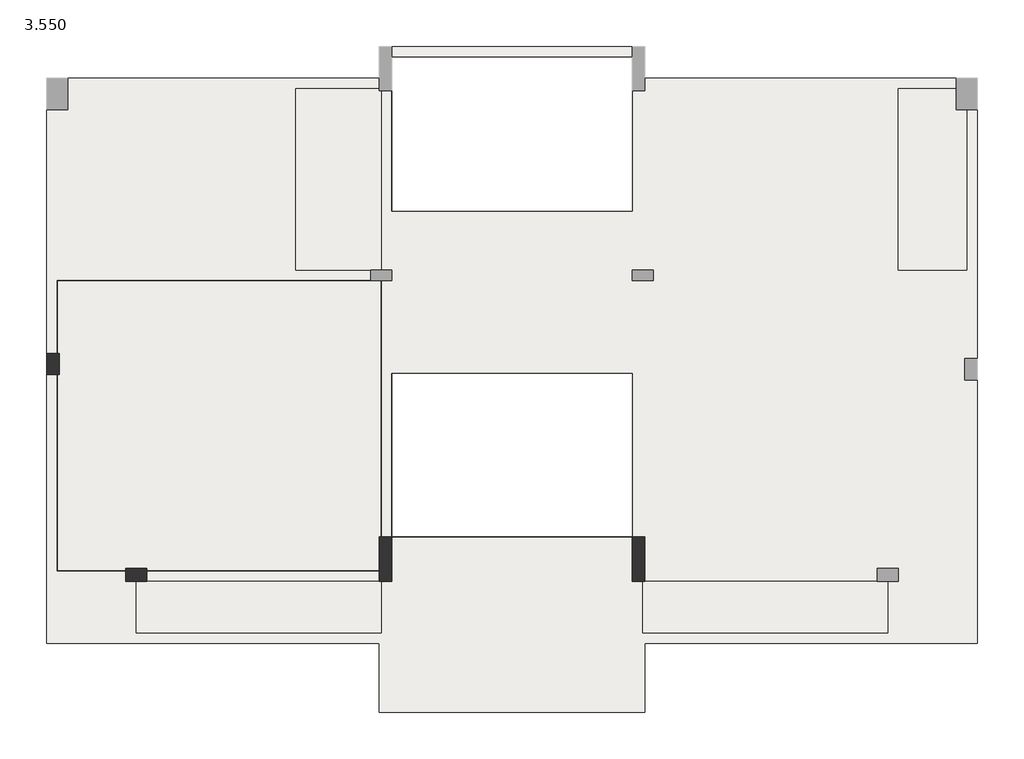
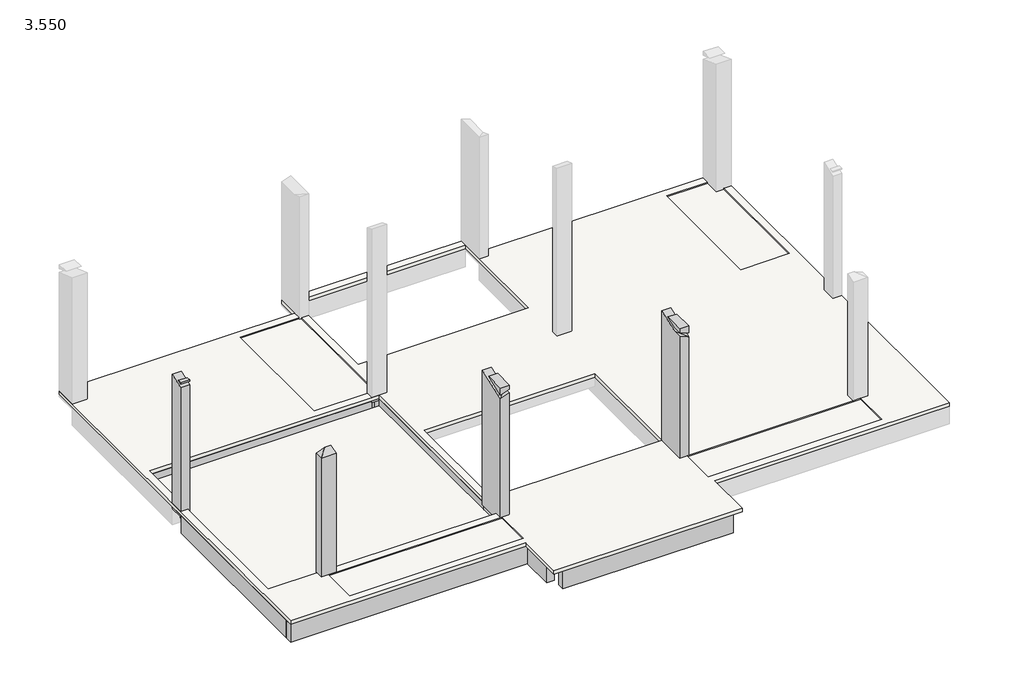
# One storey, part 1 of 2: 11 beams, 4 columns, 3 slabs.
"""IFC4 building model written with IfcOpenShell, lengths in millimetres."""

from ifc_helpers import new_model, si_unit, frame, origin, place, context, project, spatial, polyline, outline, extrude, faceted_brep, element, save

model = new_model("IFC4")

# Units and contexts
model_context = context("Model", 3, world=origin())
ifc_project = project(units=[si_unit("LENGTHUNIT", "METRE", prefix="MILLI")], contexts=[model_context])

# Site, building, storey
site = spatial("IfcSite", under=ifc_project)
building = spatial("IfcBuilding", under=site)
storey = spatial("IfcBuildingStorey", under=building, Name="3.550", Elevation=3550.0)

# Beams
placement = place(None, origin())
element("IfcBeam", 1, ObjectType="混凝土 - 矩形梁 : KL1 200X600", at=placement, inside=storey, context=model_context, shape_type="Brep", body=[
    faceted_brep([(-13244.5197818, -993.9538269, 2950.0), (-7304.5197818, -993.9538269, 2950.0), (-7304.5197818, -993.9538269, 3400.0), (-7304.5197818, -993.9538269, 3450.0), (-13244.5197818, -993.9538269, 3450.0), (-13244.5197818, -993.9538269, 3250.0), (-13244.5197818, -993.9538269, 3090.0), (-13244.5197818, -793.9538269, 2950.0), (-7304.5197818, -793.9538269, 2950.0), (-13244.5197818, -793.9538269, 3450.0), (-8924.5197818, -793.9538269, 3450.0), (-8724.5197818, -793.9538269, 3450.0), (-7304.5197818, -793.9538269, 3450.0), (-7304.5197818, -793.9538269, 3420.0), (-7304.5197818, -793.9538269, 3400.0)], [[[0, 1, 2, 3, 4, 5, 6]], [[0, 7, 8, 1]], [[8, 7, 9, 10, 11, 12, 13, 14]], [[7, 0, 6, 5, 4, 9]], [[1, 8, 14, 13, 12, 3, 2]], [[4, 3, 12, 11, 10, 9]]]),
])
element("IfcBeam", 2, ObjectType="混凝土 - 矩形梁 : KL1 200X600", at=placement, inside=storey, context=model_context, shape_type="Brep", body=[
    faceted_brep([(-11544.5197818, -6693.9538269, 2950.0), (-7144.5197818, -6693.9538269, 2950.0), (-7144.5197818, -6693.9538269, 3400.0), (-7144.5197818, -6693.9538269, 3420.0), (-7144.5197818, -6693.9538269, 3450.0), (-11544.5197818, -6693.9538269, 3450.0), (-11544.5197818, -6693.9538269, 3420.0), (-11544.5197818, -6693.9538269, 3400.0), (-11544.5197818, -6493.9538269, 2950.0), (-7144.5197818, -6493.9538269, 2950.0), (-11544.5197818, -6493.9538269, 3090.0), (-11544.5197818, -6493.9538269, 3250.0), (-11544.5197818, -6493.9538269, 3400.0), (-11544.5197818, -6493.9538269, 3450.0), (-7144.5197818, -6493.9538269, 3450.0), (-7144.5197818, -6493.9538269, 3250.0), (-7144.5197818, -6493.9538269, 3090.0)], [[[0, 1, 2, 3, 4, 5, 6, 7]], [[0, 8, 9, 1]], [[9, 8, 10, 11, 12, 13, 14, 15, 16]], [[8, 0, 7, 6, 5, 13, 12, 11, 10]], [[1, 9, 16, 15, 14, 4, 3, 2]], [[5, 4, 14, 13]]]),
    faceted_brep([(-13244.5197818, -6493.9538269, 2950.0), (-13244.5197818, -6693.9538269, 2950.0), (-13244.5197818, -6693.9538269, 3450.0), (-13244.5197818, -6493.9538269, 3450.0), (-13244.5197818, -6493.9538269, 3250.0), (-13244.5197818, -6493.9538269, 3090.0), (-11944.5197818, -6693.9538269, 2950.0), (-11944.5197818, -6493.9538269, 2950.0), (-11944.5197818, -6493.9538269, 3090.0), (-11944.5197818, -6493.9538269, 3250.0), (-11944.5197818, -6493.9538269, 3400.0), (-11944.5197818, -6493.9538269, 3450.0), (-11944.5197818, -6693.9538269, 3450.0), (-11944.5197818, -6693.9538269, 3400.0)], [[[0, 1, 2, 3, 4, 5]], [[6, 7, 8, 9, 10, 11, 12, 13]], [[1, 6, 13, 12, 2]], [[1, 0, 7, 6]], [[7, 0, 5, 4, 3, 11, 10, 9, 8]], [[3, 2, 12, 11]]]),
])
element("IfcBeam", 3, ObjectType="混凝土 - 矩形梁 : KL1 200X600", at=placement, inside=storey, context=model_context, shape_type="Brep", body=[
    faceted_brep([(-6904.5197818, -6053.9538269, 2950.0), (-2344.5197818, -6053.9538269, 2950.0), (-2344.5197818, -6053.9538269, 3450.0), (-6904.5197818, -6053.9538269, 3450.0), (-6904.5197818, -5853.9538269, 2950.0), (-2344.5197818, -5853.9538269, 2950.0), (-6904.5197818, -5853.9538269, 3400.0), (-6904.5197818, -5853.9538269, 3450.0), (-2344.5197818, -5853.9538269, 3450.0), (-2344.5197818, -5853.9538269, 3400.0)], [[[0, 1, 2, 3]], [[0, 4, 5, 1]], [[5, 4, 6, 7, 8, 9]], [[4, 0, 3, 7, 6]], [[1, 5, 9, 8, 2]], [[3, 2, 8, 7]]]),
])
element("IfcBeam", 4, ObjectType="混凝土 - 矩形梁 : KL1 200X600", at=placement, inside=storey, context=model_context, shape_type="Brep", body=[
    faceted_brep([(-13444.5197818, -7873.9538269, 2950.0), (-7104.5197818, -7873.9538269, 2950.0), (-7104.5197818, -7873.9538269, 3450.0), (-7144.5197818, -7873.9538269, 3450.0), (-13444.5197818, -7873.9538269, 3450.0), (-13444.5197818, -7673.9538269, 2950.0), (-13244.5197818, -7673.9538269, 2950.0), (-7104.5197818, -7673.9538269, 2950.0), (-13444.5197818, -7673.9538269, 3450.0), (-13244.5197818, -7673.9538269, 3450.0), (-11944.5197818, -7673.9538269, 3450.0), (-11744.5197818, -7673.9538269, 3450.0), (-7104.5197818, -7673.9538269, 3450.0), (-7104.5197818, -7673.9538269, 3420.0)], [[[0, 1, 2, 3, 4]], [[0, 5, 6, 7, 1]], [[7, 6, 5, 8, 9, 10, 11, 12, 13]], [[5, 0, 4, 8]], [[1, 7, 13, 12, 2]], [[4, 3, 2, 12, 11, 10, 9, 8]]]),
])
element("IfcBeam", 5, ObjectType="混凝土 - 矩形梁 : KL1 200X600", at=placement, inside=storey, context=model_context, shape_type="Brep", body=[
    faceted_brep([(-13444.5197818, -2793.9538269, 2950.0), (-13444.5197818, -7673.9538269, 2950.0), (-13444.5197818, -7673.9538269, 3450.0), (-13444.5197818, -2793.9538269, 3450.0), (-13244.5197818, -7673.9538269, 2950.0), (-13244.5197818, -2793.9538269, 2950.0), (-13244.5197818, -6493.9538269, 2950.0), (-13244.5197818, -6693.9538269, 2950.0), (-13244.5197818, -2793.9538269, 3090.0), (-13244.5197818, -2793.9538269, 3250.0), (-13244.5197818, -2793.9538269, 3450.0), (-13244.5197818, -6493.9538269, 3450.0), (-13244.5197818, -6693.9538269, 3450.0), (-13244.5197818, -7673.9538269, 3450.0)], [[[0, 1, 2, 3]], [[4, 1, 0, 5, 6, 7]], [[4, 7, 6, 5, 8, 9, 10, 11, 12, 13]], [[1, 4, 13, 2]], [[5, 0, 3, 10, 9, 8]], [[3, 2, 13, 12, 11, 10]]]),
])
element("IfcBeam", 6, ObjectType="混凝土 - 矩形梁 : KL1 200X600", at=placement, inside=storey, context=model_context, shape_type="Brep", body=[
    faceted_brep([(-7104.5197818, -993.9538269, 2950.0), (-7104.5197818, -5853.9538269, 2950.0), (-7104.5197818, -5853.9538269, 3090.0), (-7104.5197818, -5853.9538269, 3250.0), (-7104.5197818, -5853.9538269, 3450.0), (-7104.5197818, -993.9538269, 3450.0), (-7104.5197818, -993.9538269, 3400.0), (-7104.5197818, -993.9538269, 3250.0), (-7104.5197818, -993.9538269, 3090.0), (-6904.5197818, -993.9538269, 2950.0), (-6904.5197818, -5853.9538269, 2950.0), (-6904.5197818, -993.9538269, 3400.0), (-6904.5197818, -993.9538269, 3450.0), (-6904.5197818, -2553.9538269, 3450.0), (-6904.5197818, -2753.9538269, 3450.0), (-6904.5197818, -5853.9538269, 3450.0), (-6904.5197818, -5853.9538269, 3400.0)], [[[0, 1, 2, 3, 4, 5, 6, 7, 8]], [[0, 9, 10, 1]], [[10, 9, 11, 12, 13, 14, 15, 16]], [[9, 0, 8, 7, 6, 5, 12, 11]], [[1, 10, 16, 15, 4, 3, 2]], [[5, 4, 15, 14, 13, 12]]]),
    faceted_brep([(-7104.5197818, -793.9538269, 2950.0), (-6904.5197818, -793.9538269, 2950.0), (-6904.5197818, -793.9538269, 3400.0), (-6904.5197818, -793.9538269, 3450.0), (-7104.5197818, -793.9538269, 3450.0), (-7104.5197818, -793.9538269, 3420.0), (-7104.5197818, -793.9538269, 3400.0), (-7104.5197818, 2606.0461731, 2950.0), (-7104.5197818, 2606.0461731, 3450.0), (-7104.5197818, 2606.0461731, 3420.0), (-6904.5197818, 2606.0461731, 2950.0), (-6904.5197818, 2606.0461731, 3400.0), (-6904.5197818, 2606.0461731, 3450.0), (-6904.5197818, 326.0461731, 3450.0), (-6904.5197818, 126.0461731, 3450.0)], [[[0, 1, 2, 3, 4, 5, 6]], [[7, 0, 6, 5, 4, 8, 9]], [[1, 0, 7, 10]], [[1, 10, 11, 12, 13, 14, 3, 2]], [[10, 7, 9, 8, 12, 11]], [[4, 3, 14, 13, 12, 8]]]),
])
element("IfcBeam", 7, ObjectType="混凝土 - 矩形梁 : KL1 200X600", at=placement, inside=storey, context=model_context, shape_type="Brep", body=[
    faceted_brep([(-7104.5197818, -6693.9538269, 2950.0), (-7104.5197818, -7673.9538269, 2950.0), (-7104.5197818, -7873.9538269, 2950.0), (-7104.5197818, -8773.9538269, 2950.0), (-7104.5197818, -8773.9538269, 3450.0), (-7104.5197818, -7873.9538269, 3450.0), (-7104.5197818, -7673.9538269, 3450.0), (-7104.5197818, -6693.9538269, 3450.0), (-7104.5197818, -6693.9538269, 3420.0), (-6904.5197818, -6693.9538269, 2950.0), (-6904.5197818, -8773.9538269, 2950.0), (-6904.5197818, -6693.9538269, 3400.0), (-6904.5197818, -6693.9538269, 3450.0), (-6904.5197818, -8773.9538269, 3450.0)], [[[0, 1, 2, 3, 4, 5, 6, 7, 8]], [[0, 9, 10, 3, 2, 1]], [[10, 9, 11, 12, 13]], [[9, 0, 8, 7, 12, 11]], [[3, 10, 13, 4]], [[7, 6, 5, 4, 13, 12]]]),
])
element("IfcBeam", 8, ObjectType="混凝土 - 矩形梁 : KL1 200X600", at=placement, inside=storey, context=model_context, shape_type="Brep", body=[
    faceted_brep([(-2144.5197818, -8773.9538269, 2950.0), (-2144.5197818, -7873.9538269, 2950.0), (-2144.5197818, -7673.9538269, 2950.0), (-2144.5197818, -6693.9538269, 2950.0), (-2144.5197818, -6693.9538269, 3420.0), (-2144.5197818, -6693.9538269, 3450.0), (-2144.5197818, -7673.9538269, 3450.0), (-2144.5197818, -7873.9538269, 3450.0), (-2144.5197818, -8773.9538269, 3450.0), (-2344.5197818, -6693.9538269, 2950.0), (-2344.5197818, -8773.9538269, 2950.0), (-2344.5197818, -8773.9538269, 3450.0), (-2344.5197818, -6693.9538269, 3450.0), (-2344.5197818, -6693.9538269, 3400.0)], [[[0, 1, 2, 3, 4, 5, 6, 7, 8]], [[9, 3, 2, 1, 0, 10]], [[9, 10, 11, 12, 13]], [[3, 9, 13, 12, 5, 4]], [[10, 0, 8, 11]], [[6, 5, 12, 11, 8, 7]]]),
])
element("IfcBeam", 9, ObjectType="混凝土 - 矩形梁 : KL1 200X600", at=placement, inside=storey, context=model_context, shape_type="SweptSolid", body=[
    extrude(outline(polyline([(-6904.5197818, -9173.9538269), (-6904.5197818, -8973.9538269), (-2344.5197818, -8973.9538269), (-2344.5197818, -9173.9538269), (-6904.5197818, -9173.9538269)])), frame((0.0, 0.0, 2950.0), z_axis=(0.0, 0.0, 1.0), x_axis=(1.0, 0.0, 0.0)), (0.0, 0.0, 1.0), 500.0),
])
element("IfcBeam", 10, ObjectType="混凝土 - 矩形梁 : KL1 200X600", at=placement, inside=storey, context=model_context, shape_type="Brep", body=[
    faceted_brep([(-6904.5197818, -6693.9538269, 2950.0), (-2344.5197818, -6693.9538269, 2950.0), (-2344.5197818, -6693.9538269, 3400.0), (-2344.5197818, -6693.9538269, 3450.0), (-6904.5197818, -6693.9538269, 3450.0), (-6904.5197818, -6693.9538269, 3400.0), (-6904.5197818, -6493.9538269, 2950.0), (-2344.5197818, -6493.9538269, 2950.0), (-6904.5197818, -6493.9538269, 3450.0), (-2344.5197818, -6493.9538269, 3450.0)], [[[0, 1, 2, 3, 4, 5]], [[0, 6, 7, 1]], [[7, 6, 8, 9]], [[6, 0, 5, 4, 8]], [[1, 7, 9, 3, 2]], [[4, 3, 9, 8]]]),
])
element("IfcBeam", 11, ObjectType="混凝土 - 矩形梁 : KL2 200X350", at=placement, inside=storey, context=model_context, shape_type="Brep", body=[
    faceted_brep([(-11944.5197818, -6693.9538269, 3200.0), (-11944.5197818, -7673.9538269, 3200.0), (-11944.5197818, -7673.9538269, 3450.0), (-11944.5197818, -6693.9538269, 3450.0), (-11944.5197818, -6693.9538269, 3400.0), (-11744.5197818, -7673.9538269, 3200.0), (-11744.5197818, -6693.9538269, 3200.0), (-11744.5197818, -6693.9538269, 3420.0), (-11744.5197818, -6693.9538269, 3450.0), (-11744.5197818, -7673.9538269, 3450.0), (-11744.5197818, -7673.9538269, 3420.0)], [[[0, 1, 2, 3, 4]], [[5, 1, 0, 6]], [[5, 6, 7, 8, 9, 10]], [[1, 5, 10, 9, 2]], [[6, 0, 4, 3, 8, 7]], [[3, 2, 9, 8]]]),
])

# Columns
element("IfcColumn", 12, ObjectType="混凝土 - 矩形 - 柱 : KZ2  240X400", at=placement, inside=storey, context=model_context, shape_type="Brep", body=[
    faceted_brep([(-13204.5197818, -2373.9538269, 3400.0), (-13204.5197818, -2773.9538269, 3400.0), (-13444.5197818, -2773.9538269, 3400.0), (-13444.5197818, -2393.9538269, 3400.0), (-13444.5197818, -2373.9538269, 3400.0), (-13244.5197818, -2373.9538269, 3400.0), (-13444.5197818, -2373.9538269, 7196.340988), (-13444.5197818, -2373.9538269, 3550.0), (-13444.5197818, -2773.9538269, 3550.0), (-13444.5197818, -2773.9538269, 7050.7528943), (-13444.5197818, -2373.9538269, 3450.0), (-13244.5197818, -2373.9538269, 3450.0), (-13244.5197818, -2373.9538269, 3550.0), (-13204.5197818, -2373.9538269, 7196.340988), (-13244.5197818, -2773.9538269, 3450.0), (-13444.5197818, -2773.9538269, 3450.0), (-13244.5197818, -2773.9538269, 3550.0), (-13204.5197818, -2773.9538269, 7050.7528943)], [[[0, 1, 2, 3, 4, 5]], [[6, 7, 8, 9]], [[0, 5, 4, 10, 11, 12, 7, 6, 13]], [[14, 11, 10, 15]], [[12, 16, 8, 7]], [[11, 14, 16, 12]], [[4, 3, 2, 15, 10]], [[17, 13, 6, 9]], [[1, 0, 13, 17]], [[2, 1, 17, 9, 8, 16, 14, 15]]]),
    faceted_brep([(-13204.5197818, -2773.9538269, 7196.340988), (-13204.5197818, -2773.9538269, 7157.1706716), (-13204.5197818, -2666.3342669, 7196.340988), (-13444.5197818, -2773.9538269, 7196.340988), (-13444.5197818, -2773.9538269, 7157.1706716), (-13444.5197818, -2666.3342669, 7196.340988)], [[[0, 1, 2]], [[0, 3, 4, 1]], [[3, 0, 2, 5]], [[2, 1, 4, 5]], [[4, 3, 5]]]),
])
element("IfcColumn", 13, ObjectType="混凝土 - 矩形 - 柱 : KZ2  240X400", at=placement, inside=storey, context=model_context, shape_type="Brep", body=[
    faceted_brep([(-11944.5197818, -6453.9538269, 3400.0), (-11544.5197818, -6453.9538269, 3400.0), (-11544.5197818, -6693.9538269, 3400.0), (-11944.5197818, -6693.9538269, 3400.0), (-11944.5197818, -6453.9538269, 6912.4442053), (-11704.5197818, -6453.9538269, 6999.7970615), (-11544.5197818, -6453.9538269, 6999.7970615), (-11544.5197818, -6693.9538269, 6912.4442053), (-11544.5197818, -6693.9538269, 3550.0), (-11544.5197818, -6493.9538269, 3550.0), (-11544.5197818, -6493.9538269, 3450.0), (-11544.5197818, -6693.9538269, 3450.0), (-11544.5197818, -6693.9538269, 3420.0), (-11744.5197818, -6693.9538269, 3550.0), (-11944.5197818, -6693.9538269, 6912.4442053), (-11944.5197818, -6693.9538269, 3550.0), (-11944.5197818, -6693.9538269, 3450.0), (-11944.5197818, -6493.9538269, 3450.0), (-11944.5197818, -6493.9538269, 3550.0), (-11744.5197818, -6693.9538269, 3450.0)], [[[0, 1, 2, 3]], [[1, 0, 4, 5, 6]], [[2, 1, 6, 7, 8, 9, 10, 11, 12]], [[13, 8, 7, 14, 15]], [[0, 3, 16, 17, 18, 15, 14, 4]], [[10, 17, 16, 19, 11]], [[18, 9, 8, 13, 15]], [[17, 10, 9, 18]], [[3, 2, 12, 11, 19, 16]], [[14, 5, 4]], [[5, 14, 7, 6]]]),
])
element("IfcColumn", 14, ObjectType="混凝土 - 矩形 - 柱 : KZ4 240X840", at=placement, inside=storey, context=model_context, shape_type="Brep", body=[
    faceted_brep([(-7144.5197818, -6693.9538269, 3400.0), (-7144.5197818, -5853.9538269, 3400.0), (-6904.5197818, -5853.9538269, 3400.0), (-6904.5197818, -6693.9538269, 3400.0), (-7144.5197818, -5853.9538269, 7218.1792021), (-6904.5197818, -5853.9538269, 7218.1792021), (-6904.5197818, -5853.9538269, 3550.0), (-7104.5197818, -5853.9538269, 3550.0), (-7104.5197818, -5853.9538269, 3450.0), (-6904.5197818, -5853.9538269, 3450.0), (-7104.5197818, -6493.9538269, 3450.0), (-7144.5197818, -6493.9538269, 3450.0), (-7144.5197818, -6693.9538269, 3450.0), (-7104.5197818, -6693.9538269, 3450.0), (-6904.5197818, -6693.9538269, 3450.0), (-6904.5197818, -6493.9538269, 3450.0), (-6904.5197818, -6053.9538269, 3450.0), (-7144.5197818, -6493.9538269, 3550.0), (-7104.5197818, -6493.9538269, 3550.0), (-6904.5197818, -6693.9538269, 3550.0), (-7104.5197818, -6693.9538269, 3550.0), (-7144.5197818, -6693.9538269, 3550.0), (-7144.5197818, -6693.9538269, 3420.0), (-6904.5197818, -6453.9538269, 6999.7970615), (-7144.5197818, -6693.9538269, 6912.4442053), (-6904.5197818, -6693.9538269, 6999.7970615)], [[[0, 1, 2, 3]], [[2, 1, 4, 5, 6, 7, 8, 9]], [[8, 10, 11, 12, 13, 14, 15, 16, 9]], [[17, 18, 7, 6, 19, 20, 21]], [[10, 18, 17, 11]], [[18, 10, 8, 7]], [[3, 2, 9, 16, 15, 14]], [[0, 3, 14, 13, 12, 22]], [[23, 24, 25]], [[24, 23, 5, 4]], [[1, 0, 22, 12, 11, 17, 21, 24, 4]], [[6, 5, 23, 25, 19]], [[20, 19, 25, 24, 21]]]),
    faceted_brep([(-7144.5197818, -6693.9538269, 7018.8619826), (-7144.5197818, -6693.9538269, 7218.1792021), (-7144.5197818, -6146.3342669, 7218.1792021), (-6904.5197818, -6693.9538269, 7218.1792021), (-6904.5197818, -6693.9538269, 7106.2148388), (-6904.5197818, -6453.9538269, 7106.2148388), (-6904.5197818, -6146.3342669, 7218.1792021)], [[[0, 1, 2]], [[3, 4, 5, 6]], [[3, 1, 0, 4]], [[1, 3, 6, 2]], [[0, 5, 4]], [[5, 0, 2, 6]]]),
])
element("IfcColumn", 15, ObjectType="混凝土 - 矩形 - 柱 : KZ4 240X840", at=placement, inside=storey, context=model_context, shape_type="Brep", body=[
    faceted_brep([(-2104.5197818, -6693.9538269, 3400.0), (-2344.5197818, -6693.9538269, 3400.0), (-2344.5197818, -5853.9538269, 3400.0), (-2104.5197818, -5853.9538269, 3400.0), (-2104.5197818, -6693.9538269, 3450.0), (-2104.5197818, -6493.9538269, 3450.0), (-2104.5197818, -5853.9538269, 3450.0), (-2144.5197818, -5853.9538269, 3450.0), (-2344.5197818, -5853.9538269, 3450.0), (-2344.5197818, -6053.9538269, 3450.0), (-2344.5197818, -6493.9538269, 3450.0), (-2344.5197818, -6693.9538269, 3450.0), (-2144.5197818, -6693.9538269, 3450.0), (-2104.5197818, -6693.9538269, 3420.0)], [[[0, 1, 2, 3]], [[4, 5, 6, 7, 8, 9, 10, 11, 12]], [[0, 3, 6, 5, 4, 13]], [[3, 2, 8, 7, 6]], [[2, 1, 11, 10, 9, 8]], [[1, 0, 13, 4, 12, 11]]]),
    faceted_brep([(-2104.5197818, -6693.9538269, 7218.1792021), (-2104.5197818, -6693.9538269, 7018.8619826), (-2104.5197818, -6146.3342669, 7218.1792021), (-2344.5197818, -6693.9538269, 7106.2148388), (-2344.5197818, -6693.9538269, 7218.1792021), (-2344.5197818, -6146.3342669, 7218.1792021), (-2344.5197818, -6453.9538269, 7106.2148388)], [[[0, 1, 2]], [[3, 4, 5, 6]], [[0, 4, 3, 1]], [[4, 0, 2, 5]], [[1, 6, 5, 2]], [[6, 1, 3]]]),
    faceted_brep([(-2104.5197818, -5853.9538269, 7218.1792021), (-2104.5197818, -5853.9538269, 3550.0), (-2344.5197818, -5853.9538269, 3550.0), (-2344.5197818, -5853.9538269, 7218.1792021), (-2104.5197818, -6693.9538269, 3550.0), (-2144.5197818, -6693.9538269, 3550.0), (-2344.5197818, -6693.9538269, 3550.0), (-2344.5197818, -6453.9538269, 6999.7970615), (-2104.5197818, -6693.9538269, 6912.4442053), (-2344.5197818, -6693.9538269, 6999.7970615)], [[[0, 1, 2, 3]], [[1, 4, 5, 6, 2]], [[7, 8, 0, 3]], [[8, 7, 9]], [[1, 0, 8, 4]], [[3, 2, 6, 9, 7]], [[6, 5, 4, 8, 9]]]),
])

# Slabs
element("IfcSlab", 16, ObjectType="100", at=placement, inside=storey, context=model_context, shape_type="Brep", body=[
    faceted_brep([(-13444.5197818, -7873.9538269, 3450.0), (-13444.5197818, -7673.9538269, 3450.0), (-13444.5197818, -2793.9538269, 3450.0), (-13444.5197818, -2773.9538269, 3450.0), (-13444.5197818, -2393.9538269, 3450.0), (-13444.5197818, -2373.9538269, 3450.0), (-13444.5197818, 2246.0461731, 3450.0), (-13444.5197818, 2846.0461731, 3450.0), (-13044.5197818, 2846.0461731, 3450.0), (-7144.5197818, 2846.0461731, 3450.0), (-7144.5197818, 3446.0461731, 3450.0), (-6904.5197818, 3446.0461731, 3450.0), (-2344.5197818, 3446.0461731, 3450.0), (-2104.5197818, 3446.0461731, 3450.0), (-2104.5197818, 2846.0461731, 3450.0), (3795.4802182, 2846.0461731, 3450.0), (4195.4802182, 2846.0461731, 3450.0), (4195.4802182, 2246.0461731, 3450.0), (4195.4802182, -2473.9538269, 3450.0), (4195.4802182, -2873.9538269, 3450.0), (4195.4802182, -7673.9538269, 3450.0), (4195.4802182, -7873.9538269, 3450.0), (-2104.5197818, -7873.9538269, 3450.0), (-2104.5197818, -8773.9538269, 3450.0), (-2104.5197818, -9173.9538269, 3450.0), (-2344.5197818, -9173.9538269, 3450.0), (-6904.5197818, -9173.9538269, 3450.0), (-7144.5197818, -9173.9538269, 3450.0), (-7144.5197818, -8773.9538269, 3450.0), (-7144.5197818, -7873.9538269, 3450.0), (-2344.5197818, 3246.0461731, 3450.0), (-6904.5197818, 3246.0461731, 3450.0), (-6904.5197818, 2606.0461731, 3450.0), (-6904.5197818, 326.0461731, 3450.0), (-2344.5197818, 326.0461731, 3450.0), (-2344.5197818, 2606.0461731, 3450.0), (-6904.5197818, -5853.9538269, 3450.0), (-2344.5197818, -5853.9538269, 3450.0), (-2344.5197818, -2753.9538269, 3450.0), (-6904.5197818, -2753.9538269, 3450.0), (-11744.5197818, -7673.9538269, 3450.0), (-7104.5197818, -7673.9538269, 3450.0), (-7104.5197818, -6693.9538269, 3450.0), (-7144.5197818, -6693.9538269, 3450.0), (-11544.5197818, -6693.9538269, 3450.0), (-11744.5197818, -6693.9538269, 3450.0), (-2144.5197818, -6693.9538269, 3450.0), (-2144.5197818, -7673.9538269, 3450.0), (2495.4802182, -7673.9538269, 3450.0), (2495.4802182, -6693.9538269, 3450.0), (2295.4802182, -6693.9538269, 3450.0), (-2104.5197818, -6693.9538269, 3450.0), (-7104.5197818, -993.9538269, 3450.0), (-7304.5197818, -993.9538269, 3450.0), (-13244.5197818, -993.9538269, 3450.0), (-13244.5197818, -2373.9538269, 3450.0), (-13244.5197818, -2393.9538269, 3450.0), (-13244.5197818, -2773.9538269, 3450.0), (-13244.5197818, -2793.9538269, 3450.0), (-13244.5197818, -6493.9538269, 3450.0), (-11944.5197818, -6493.9538269, 3450.0), (-11544.5197818, -6493.9538269, 3450.0), (-7144.5197818, -6493.9538269, 3450.0), (-7104.5197818, -6493.9538269, 3450.0), (-7104.5197818, -5853.9538269, 3450.0), (3995.4802182, 2646.0461731, 3450.0), (3795.4802182, 2646.0461731, 3450.0), (2695.4802182, 2646.0461731, 3450.0), (2695.4802182, -793.9538269, 3450.0), (3995.4802182, -793.9538269, 3450.0), (3995.4802182, 2246.0461731, 3450.0), (-7104.5197818, 2646.0461731, 3450.0), (-7144.5197818, 2646.0461731, 3450.0), (-8724.5197818, 2646.0461731, 3450.0), (-8724.5197818, -793.9538269, 3450.0), (-7304.5197818, -793.9538269, 3450.0), (-7104.5197818, -793.9538269, 3450.0), (-7104.5197818, 2606.0461731, 3450.0), (-13444.5197818, -7873.9538269, 3550.0), (-7144.5197818, -7873.9538269, 3550.0), (-7144.5197818, -9173.9538269, 3550.0), (-2104.5197818, -9173.9538269, 3550.0), (-2104.5197818, -7873.9538269, 3550.0), (4195.4802182, -7873.9538269, 3550.0), (4195.4802182, -2873.9538269, 3550.0), (4195.4802182, -2473.9538269, 3550.0), (4195.4802182, 2246.0461731, 3550.0), (4195.4802182, 2846.0461731, 3550.0), (3795.4802182, 2846.0461731, 3550.0), (-2104.5197818, 2846.0461731, 3550.0), (-2104.5197818, 3446.0461731, 3550.0), (-2344.5197818, 3446.0461731, 3550.0), (-6904.5197818, 3446.0461731, 3550.0), (-7144.5197818, 3446.0461731, 3550.0), (-7144.5197818, 2846.0461731, 3550.0), (-13044.5197818, 2846.0461731, 3550.0), (-13444.5197818, 2846.0461731, 3550.0), (-13444.5197818, 2246.0461731, 3550.0), (-13444.5197818, -2373.9538269, 3550.0), (-13444.5197818, -2773.9538269, 3550.0), (-6904.5197818, -5853.9538269, 3550.0), (-6904.5197818, -2753.9538269, 3550.0), (-2344.5197818, -2753.9538269, 3550.0), (-2344.5197818, -5853.9538269, 3550.0), (-11744.5197818, -7673.9538269, 3550.0), (-11744.5197818, -6693.9538269, 3550.0), (-11544.5197818, -6693.9538269, 3550.0), (-7144.5197818, -6693.9538269, 3550.0), (-7104.5197818, -6693.9538269, 3550.0), (-7104.5197818, -7673.9538269, 3550.0), (-7104.5197818, -993.9538269, 3550.0), (-7104.5197818, -5853.9538269, 3550.0), (-7104.5197818, -6493.9538269, 3550.0), (-7144.5197818, -6493.9538269, 3550.0), (-11544.5197818, -6493.9538269, 3550.0), (-11944.5197818, -6493.9538269, 3550.0), (-13244.5197818, -6493.9538269, 3550.0), (-13244.5197818, -2793.9538269, 3550.0), (-13244.5197818, -2773.9538269, 3550.0), (-13244.5197818, -2393.9538269, 3550.0), (-13244.5197818, -2373.9538269, 3550.0), (-13244.5197818, -993.9538269, 3550.0), (-7304.5197818, -993.9538269, 3550.0), (3995.4802182, 2646.0461731, 3550.0), (3995.4802182, 2246.0461731, 3550.0), (3995.4802182, -793.9538269, 3550.0), (2695.4802182, -793.9538269, 3550.0), (2695.4802182, 2646.0461731, 3550.0), (3795.4802182, 2646.0461731, 3550.0), (-2144.5197818, -6693.9538269, 3550.0), (-2104.5197818, -6693.9538269, 3550.0), (2295.4802182, -6693.9538269, 3550.0), (2495.4802182, -6693.9538269, 3550.0), (2495.4802182, -7673.9538269, 3550.0), (-2144.5197818, -7673.9538269, 3550.0), (-7104.5197818, 2646.0461731, 3550.0), (-7104.5197818, 2606.0461731, 3550.0), (-7104.5197818, -793.9538269, 3550.0), (-7304.5197818, -793.9538269, 3550.0), (-8724.5197818, -793.9538269, 3550.0), (-8724.5197818, 2646.0461731, 3550.0), (-7144.5197818, 2646.0461731, 3550.0), (-2344.5197818, 3246.0461731, 3550.0), (-2344.5197818, 2606.0461731, 3550.0), (-2344.5197818, 326.0461731, 3550.0), (-6904.5197818, 326.0461731, 3550.0), (-6904.5197818, 2606.0461731, 3550.0), (-6904.5197818, 3246.0461731, 3550.0), (-7104.5197818, 2646.0461731, 3520.0), (3995.4802182, 2646.0461731, 3520.0)], [[[0, 1, 2, 3, 4, 5, 6, 7, 8, 9, 10, 11, 12, 13, 14, 15, 16, 17, 18, 19, 20, 21, 22, 23, 24, 25, 26, 27, 28, 29], [30, 31, 32, 33, 34, 35], [36, 37, 38, 39], [40, 41, 42, 43, 44, 45], [46, 47, 48, 49, 50, 51], [52, 53, 54, 55, 56, 57, 58, 59, 60, 61, 62, 63, 64], [65, 66, 67, 68, 69, 70], [71, 72, 73, 74, 75, 76, 77]], [[78, 79, 80, 81, 82, 83, 84, 85, 86, 87, 88, 89, 90, 91, 92, 93, 94, 95, 96, 97, 98, 99], [100, 101, 102, 103], [104, 105, 106, 107, 108, 109], [110, 111, 112, 113, 114, 115, 116, 117, 118, 119, 120, 121, 122], [123, 124, 125, 126, 127, 128], [129, 130, 131, 132, 133, 134], [135, 136, 137, 138, 139, 140, 141], [142, 143, 144, 145, 146, 147]], [[7, 6, 5, 4, 3, 2, 1, 0, 78, 99, 98, 97, 96]], [[9, 8, 7, 96, 95, 94]], [[10, 9, 94, 93]], [[13, 12, 11, 10, 93, 92, 91, 90]], [[14, 13, 90, 89]], [[16, 15, 14, 89, 88, 87]], [[21, 20, 19, 18, 17, 16, 87, 86, 85, 84, 83]], [[22, 21, 83, 82]], [[24, 23, 22, 82, 81]], [[27, 26, 25, 24, 81, 80]], [[29, 28, 27, 80, 79]], [[0, 29, 79, 78]], [[31, 30, 142, 147]], [[33, 32, 31, 147, 146, 145]], [[34, 33, 145, 144]], [[30, 35, 34, 144, 143, 142]], [[37, 36, 100, 103]], [[38, 37, 103, 102]], [[39, 38, 102, 101]], [[36, 39, 101, 100]], [[54, 53, 52, 110, 122, 121]], [[59, 58, 57, 56, 55, 54, 121, 120, 119, 118, 117, 116]], [[63, 62, 61, 60, 59, 116, 115, 114, 113, 112]], [[52, 64, 63, 112, 111, 110]], [[73, 72, 71, 148, 135, 141, 140]], [[74, 73, 140, 139]], [[76, 75, 74, 139, 138, 137]], [[71, 77, 76, 137, 136, 135, 148]], [[67, 66, 65, 149, 123, 128, 127]], [[68, 67, 127, 126]], [[69, 68, 126, 125]], [[65, 70, 69, 125, 124, 123, 149]], [[47, 46, 129, 134]], [[48, 47, 134, 133]], [[49, 48, 133, 132]], [[46, 51, 50, 49, 132, 131, 130, 129]], [[41, 40, 104, 109]], [[42, 41, 109, 108]], [[45, 44, 43, 42, 108, 107, 106, 105]], [[40, 45, 105, 104]]]),
])
element("IfcSlab", 17, ObjectType="100", at=placement, inside=storey, context=model_context, shape_type="Brep", body=[
    faceted_brep([(2695.4802182, -793.9538269, 3420.0), (2695.4802182, 2646.0461731, 3420.0), (3795.4802182, 2646.0461731, 3420.0), (3995.4802182, 2646.0461731, 3420.0), (3995.4802182, 2246.0461731, 3420.0), (3995.4802182, -793.9538269, 3420.0), (2695.4802182, -793.9538269, 3520.0), (3995.4802182, -793.9538269, 3520.0), (3995.4802182, 2246.0461731, 3520.0), (3995.4802182, 2646.0461731, 3520.0), (3795.4802182, 2646.0461731, 3520.0), (2695.4802182, 2646.0461731, 3520.0), (2695.4802182, -793.9538269, 3450.0), (2695.4802182, 2646.0461731, 3450.0), (3995.4802182, 2646.0461731, 3450.0), (3995.4802182, -793.9538269, 3450.0)], [[[0, 1, 2, 3, 4, 5]], [[6, 7, 8, 9, 10, 11]], [[1, 0, 12, 6, 11, 13]], [[3, 2, 1, 13, 11, 10, 9, 14]], [[5, 4, 3, 14, 9, 8, 7, 15]], [[0, 5, 15, 7, 6, 12]]]),
    faceted_brep([(-2144.5197818, -6693.9538269, 3420.0), (2495.4802182, -6693.9538269, 3420.0), (2495.4802182, -7673.9538269, 3420.0), (-2144.5197818, -7673.9538269, 3420.0), (-2144.5197818, -6693.9538269, 3520.0), (-2144.5197818, -7673.9538269, 3520.0), (2495.4802182, -7673.9538269, 3520.0), (2495.4802182, -6693.9538269, 3520.0), (-2144.5197818, -6693.9538269, 3450.0), (2495.4802182, -6693.9538269, 3450.0), (2495.4802182, -7673.9538269, 3450.0), (-2144.5197818, -7673.9538269, 3450.0)], [[[0, 1, 2, 3]], [[4, 5, 6, 7]], [[1, 0, 8, 4, 7, 9]], [[2, 1, 9, 7, 6, 10]], [[3, 2, 10, 6, 5, 11]], [[0, 3, 11, 5, 4, 8]]]),
    faceted_brep([(-7104.5197818, -6693.9538269, 3420.0), (-7104.5197818, -7673.9538269, 3420.0), (-11744.5197818, -7673.9538269, 3420.0), (-11744.5197818, -6693.9538269, 3420.0), (-7104.5197818, -6693.9538269, 3520.0), (-11744.5197818, -6693.9538269, 3520.0), (-11744.5197818, -7673.9538269, 3520.0), (-7104.5197818, -7673.9538269, 3520.0), (-7104.5197818, -6693.9538269, 3450.0), (-7104.5197818, -7673.9538269, 3450.0), (-11744.5197818, -7673.9538269, 3450.0), (-11744.5197818, -6693.9538269, 3450.0)], [[[0, 1, 2, 3]], [[4, 5, 6, 7]], [[1, 0, 8, 4, 7, 9]], [[2, 1, 9, 7, 6, 10]], [[3, 2, 10, 6, 5, 11]], [[0, 3, 11, 5, 4, 8]]]),
    faceted_brep([(-7104.5197818, 2646.0461731, 3420.0), (-7104.5197818, 2606.0461731, 3420.0), (-7104.5197818, -793.9538269, 3420.0), (-8724.5197818, -793.9538269, 3420.0), (-8724.5197818, 2646.0461731, 3420.0), (-7144.5197818, 2646.0461731, 3420.0), (-7104.5197818, 2646.0461731, 3520.0), (-7144.5197818, 2646.0461731, 3520.0), (-8724.5197818, 2646.0461731, 3520.0), (-8724.5197818, -793.9538269, 3520.0), (-7104.5197818, -793.9538269, 3520.0), (-7104.5197818, 2606.0461731, 3520.0), (-7104.5197818, 2646.0461731, 3450.0), (-7104.5197818, -793.9538269, 3450.0), (-8724.5197818, -793.9538269, 3450.0), (-8724.5197818, 2646.0461731, 3450.0)], [[[0, 1, 2, 3, 4, 5]], [[6, 7, 8, 9, 10, 11]], [[2, 1, 0, 12, 6, 11, 10, 13]], [[3, 2, 13, 10, 9, 14]], [[4, 3, 14, 9, 8, 15]], [[0, 5, 4, 15, 8, 7, 6, 12]]]),
])
element("IfcSlab", 18, ObjectType="160", at=placement, inside=storey, context=model_context, shape_type="Brep", body=[
    faceted_brep([(-13244.5197818, -993.9538269, 3090.0), (-7104.5197818, -993.9538269, 3090.0), (-7104.5197818, -5853.9538269, 3090.0), (-7104.5197818, -6493.9538269, 3090.0), (-7144.5197818, -6493.9538269, 3090.0), (-11544.5197818, -6493.9538269, 3090.0), (-11944.5197818, -6493.9538269, 3090.0), (-13244.5197818, -6493.9538269, 3090.0), (-13244.5197818, -2793.9538269, 3090.0), (-13244.5197818, -2393.9538269, 3090.0), (-13244.5197818, -993.9538269, 3250.0), (-13244.5197818, -2393.9538269, 3250.0), (-13244.5197818, -2793.9538269, 3250.0), (-13244.5197818, -6493.9538269, 3250.0), (-11944.5197818, -6493.9538269, 3250.0), (-11544.5197818, -6493.9538269, 3250.0), (-7144.5197818, -6493.9538269, 3250.0), (-7104.5197818, -6493.9538269, 3250.0), (-7104.5197818, -5853.9538269, 3250.0), (-7104.5197818, -993.9538269, 3250.0)], [[[0, 1, 2, 3, 4, 5, 6, 7, 8, 9]], [[10, 11, 12, 13, 14, 15, 16, 17, 18, 19]], [[1, 0, 10, 19]], [[3, 2, 1, 19, 18, 17]], [[7, 6, 5, 4, 3, 17, 16, 15, 14, 13]], [[0, 9, 8, 7, 13, 12, 11, 10]]]),
])

save(model, "model.ifc")
